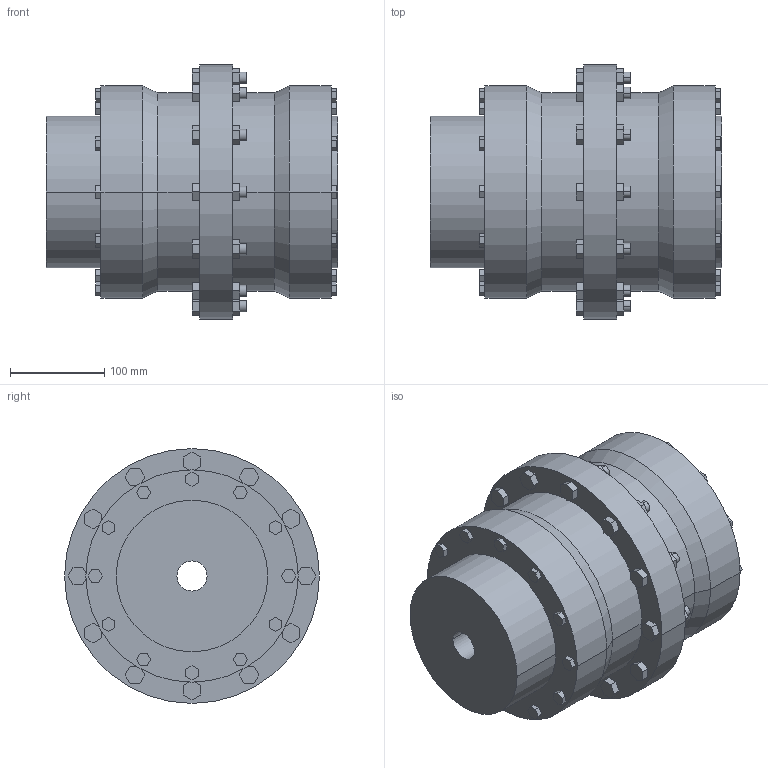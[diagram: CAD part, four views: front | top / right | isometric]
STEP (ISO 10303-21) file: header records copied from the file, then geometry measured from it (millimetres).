
FILE_DESCRIPTION((''),'2;1');
FILE_NAME('A19711600-0_ASM','2019-05-23T',('AB_Roschiwal'),('RENK AG'),'PRO/ENGINEER BY PARAMETRIC TECHNOLOGY CORPORATION, 2015440','PRO/ENGINEER BY PARAMETRIC TECHNOLOGY CORPORATION, 2015440','');
FILE_SCHEMA(('CONFIG_CONTROL_DESIGN'));
Length unit declared in the file: millimetre
Products named in the file (3): SBK100_GEHAEUSE; SBK100_NABE; A19711600-0_ASM
Assembly tree (3 placements, depth 2):
  A19711600-0_ASM
    SBK100_GEHAEUSE
    SBK100_NABE  x2
Bounding box: 309 x 270 x 270 mm (x, y, z)
Volume: 8447162.1 mm3; surface area: 701381 mm2
Topology: 3 solids, 3 shells, 422 faces, 1036 edges, 688 vertices
Faces by surface type: plane 362, cylinder 56, cone 4
Entity records: 12052 total; most frequent: CARTESIAN_POINT 2100, ORIENTED_EDGE 2024, DIRECTION 1940, EDGE_CURVE 1012, VECTOR 916, LINE 916, VERTEX_POINT 672, AXIS2_PLACEMENT_3D 512
